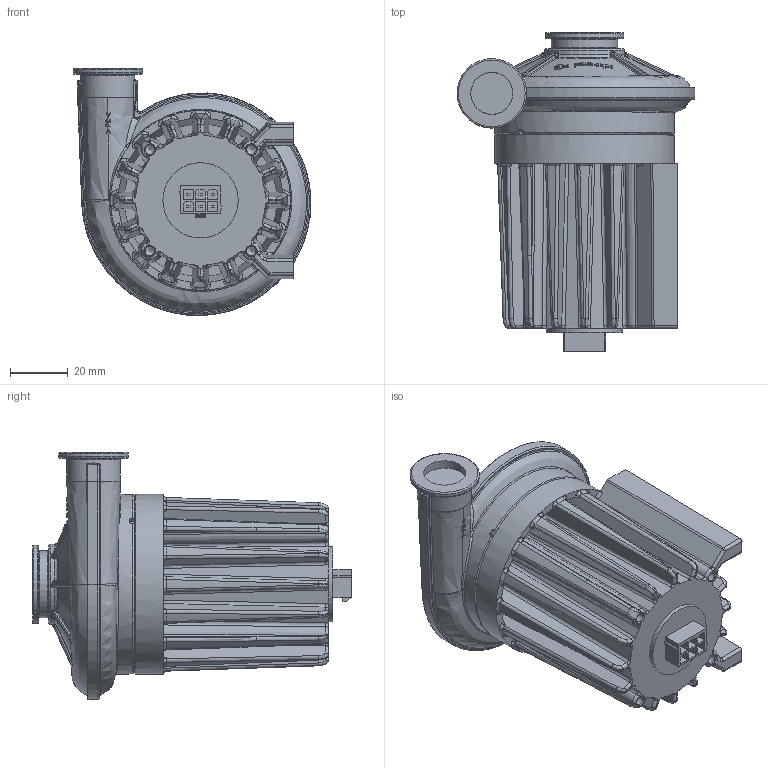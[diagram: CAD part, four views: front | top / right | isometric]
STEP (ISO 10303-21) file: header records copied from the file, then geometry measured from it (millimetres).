
FILE_DESCRIPTION(/* description */ (''),/* implementation_level */ '2;1');
FILE_NAME(/* name */ 'U85HL-024KH-4.stp',/* time_stamp */ '2024-06-10T13:03:45+02:00',/* author */ (''),/* organization */ (''),/* preprocessor_version */ 'ST-DEVELOPER v16.7',/* originating_system */ 'SIEMENS PLM Software NX 1946',/* authorisation */ '');
FILE_SCHEMA (('AUTOMOTIVE_DESIGN { 1 0 10303 214 3 1 1 1 }'));
Products named in the file (1): 020471_2-U85HL-024KH-4_simple _U85HL-024KH-4_
Bounding box: 82.09 x 109.9 x 85.27 mm (x, y, z)
Volume: 251896.4 mm3; surface area: 46107.9 mm2
Topology: 1 solids, 1 shells, 1304 faces, 3285 edges, 1992 vertices
Faces by surface type: plane 422, bspline 399, cylinder 288, cone 112, torus 54, sphere 28, revolution 1
Full cylindrical faces by diameter (mm): 3.3 x8, 14.5 x1, 18.5 x1, 23 x1, 24 x1, 26 x1, 27 x1, 56.6 x1, 62 x1
Entity records: 56018 total; most frequent: CARTESIAN_POINT 29625, ORIENTED_EDGE 6354, DIRECTION 3870, EDGE_CURVE 3177, VERTEX_POINT 1965, B_SPLINE_CURVE_WITH_KNOTS 1609, AXIS2_PLACEMENT_3D 1446, EDGE_LOOP 1386
